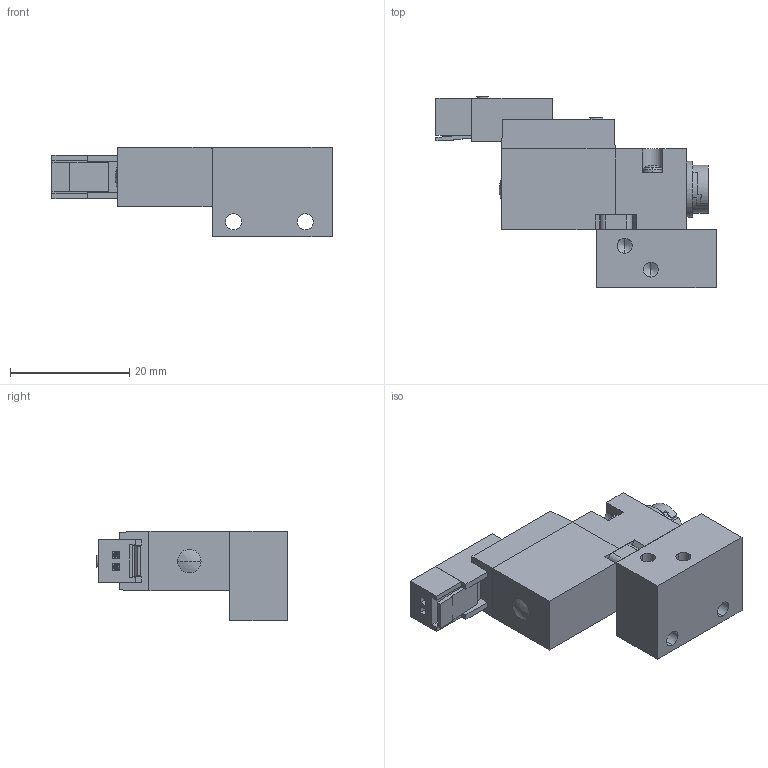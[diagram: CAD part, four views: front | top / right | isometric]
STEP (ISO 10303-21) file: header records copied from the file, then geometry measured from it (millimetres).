
FILE_DESCRIPTION (( 'STEP AP203' ), '1' );
FILE_NAME ('A00SO(C)23-#Q.STEP', '2016-02-04T01:46:53', ( 'Sam Lin' ), ( '' ), 'SwSTEP 2.0', 'SolidWorks 2013', '' );
FILE_SCHEMA (( 'CONFIG_CONTROL_DESIGN' ));
Length unit declared in the file: metre
Products named in the file (11): A00SO(C)23-#Q; A05RS25-4; ISO 7045 - M1.6 x 10; A05RS25-5; A05RS25-6; A05RS25-7; A05RS25-8-2; A05RS25-10-2; A00S-1; A00S-2; A05RS25-3
Assembly tree (13 placements, depth 2):
  A00SO(C)23-#Q
    A00S-1
    A05RS25-3
    A05RS25-4
    ISO 7045 - M1.6 x 10  x2
    A05RS25-5
    A05RS25-6  x2
    A05RS25-7
    A05RS25-8-2  x2
    A05RS25-10-2
    A00S-2
Bounding box: 46.9 x 32 x 15 mm (x, y, z)
Volume: 7835.5 mm3; surface area: 6152.4 mm2
Topology: 14 solids, 14 shells, 345 faces, 863 edges, 550 vertices
Faces by surface type: plane 241, cylinder 60, cone 26, bspline 18
Entity records: 9547 total; most frequent: CARTESIAN_POINT 1757, ORIENTED_EDGE 1362, DIRECTION 1343, EDGE_CURVE 681, LINE 481, VECTOR 481, VERTEX_POINT 445, AXIS2_PLACEMENT_3D 431
